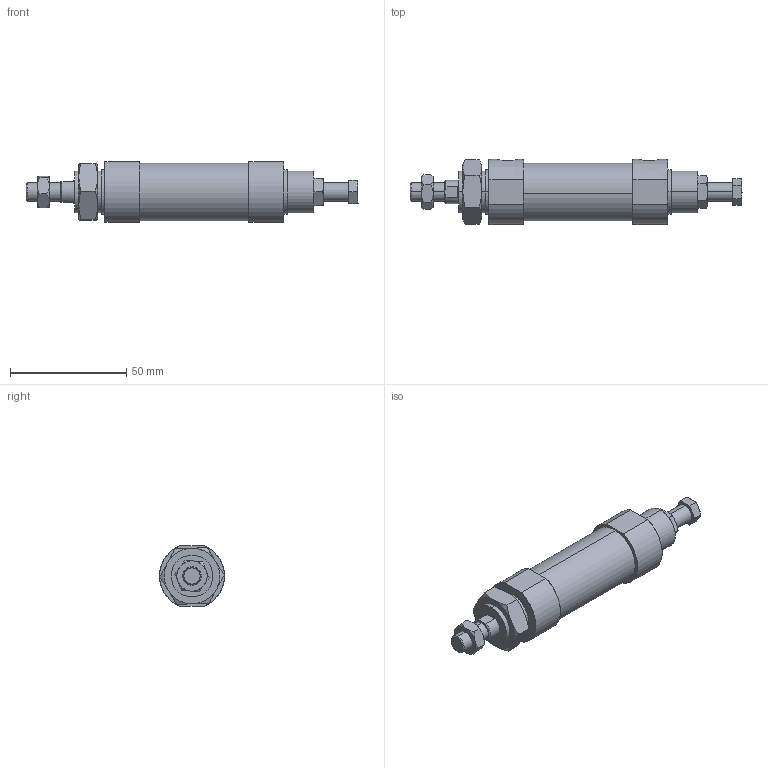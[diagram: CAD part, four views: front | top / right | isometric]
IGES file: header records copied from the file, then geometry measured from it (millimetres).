
Start section: SolidWorks IGES file using analytic representation for surfaces
Global section: file name: C:\Users\Toshiba\Desktop\JGA2-20-15-N.IGS; native system: SolidWorks 2014; preprocessor: SolidWorks 2014; author: Toshiba; date: 160420.130511; units: millimetre
Bounding box: 143 x 28 x 26 mm (x, y, z)
Surface area: 15243.1 mm2 (no closed solid volume)
Topology: 0 solids, 0 shells, 121 faces, 2104 edges, 2104 vertices
Faces by surface type: bspline 89, revolution 32
